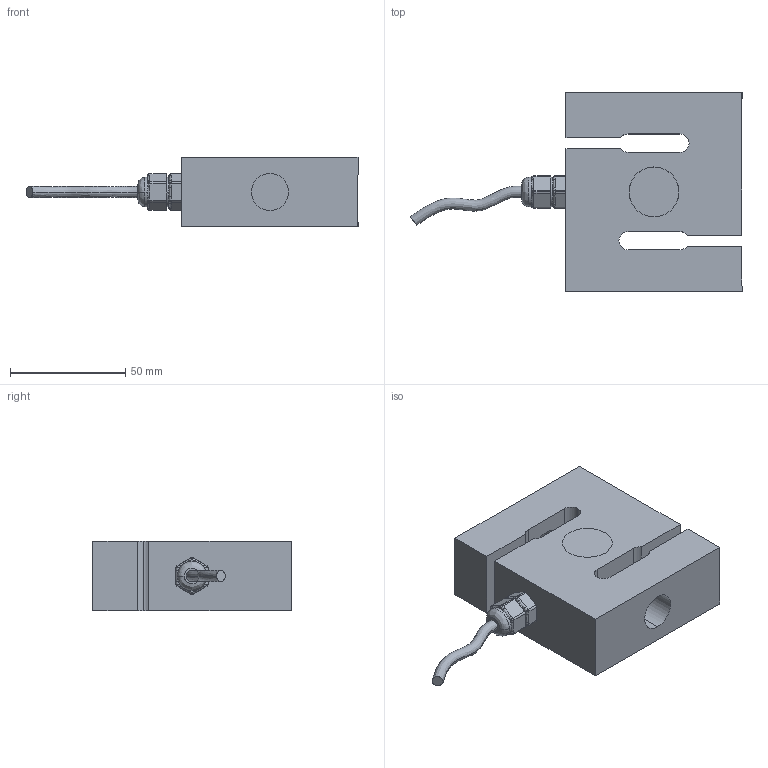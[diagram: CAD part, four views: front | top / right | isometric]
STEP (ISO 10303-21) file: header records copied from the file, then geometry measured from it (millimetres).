
FILE_DESCRIPTION (( 'STEP AP203' ), '1' );
FILE_NAME ('HI STLB-4.4KLB.STEP', '2014-10-14T16:16:20', ( '' ), ( '' ), 'SwSTEP 2.0', 'SolidWorks 2013', '' );
FILE_SCHEMA (( 'CONFIG_CONTROL_DESIGN' ));
Length unit declared in the file: millimetre
Products named in the file (4): HI STLB-4.4KLB; Cable and Adapter; Load Element; Element Core
Assembly tree (3 placements, depth 2):
  HI STLB-4.4KLB
    Load Element
    Element Core
    Cable and Adapter
Bounding box: 143.73 x 86 x 30 mm (x, y, z)
Volume: 172781.2 mm3; surface area: 34935.2 mm2
Topology: 3 solids, 3 shells, 131 faces, 315 edges, 184 vertices
Faces by surface type: cylinder 57, plane 46, bspline 16, sphere 12
Entity records: 4971 total; most frequent: CARTESIAN_POINT 1552, DIRECTION 669, ORIENTED_EDGE 614, EDGE_CURVE 307, AXIS2_PLACEMENT_3D 261, VERTEX_POINT 184, VECTOR 147, LINE 147
